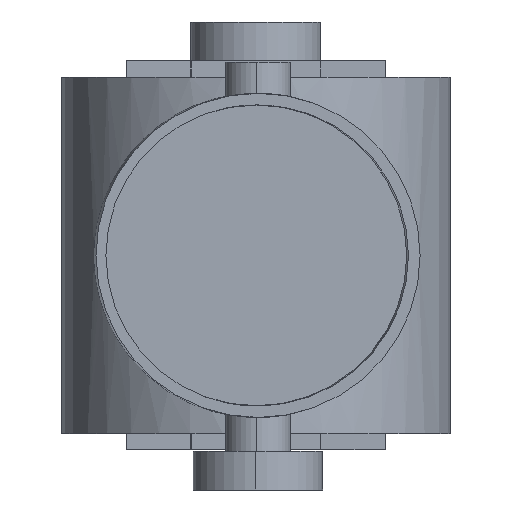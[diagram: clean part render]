
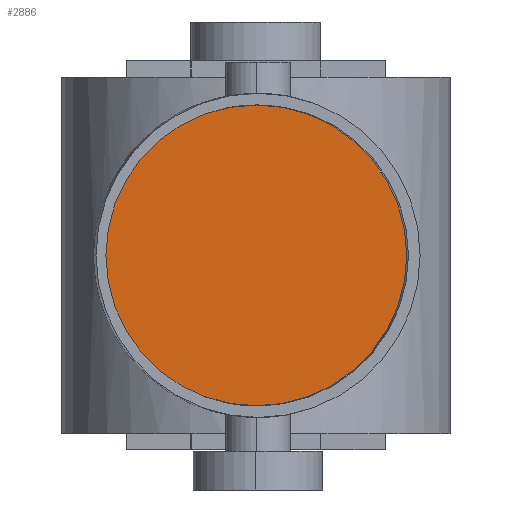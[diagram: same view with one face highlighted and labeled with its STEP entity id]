
A CAD part, front view. The second image highlights one B-rep face of the part: STEP entity #2886.
In plain terms, the highlighted planar face has unit normal (0, -1, 0).
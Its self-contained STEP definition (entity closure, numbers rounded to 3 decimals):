
#37 = EDGE_CURVE ( 'NONE', #3017, #2180, #2460, .T. ) ;
#167 = CARTESIAN_POINT ( 'NONE',  ( 0., 0., 0. ) ) ;
#250 = PLANE ( 'NONE',  #1752 ) ;
#609 = EDGE_LOOP ( 'NONE', ( #1211, #1954 ) ) ;
#676 = CARTESIAN_POINT ( 'NONE',  ( 0., 0., 0. ) ) ;
#693 = DIRECTION ( 'NONE',  ( 0., 0., 1. ) ) ;
#903 = DIRECTION ( 'NONE',  ( 0., 1., 0. ) ) ;
#1200 = FACE_OUTER_BOUND ( 'NONE', #609, .T. ) ;
#1211 = ORIENTED_EDGE ( 'NONE', *, *, #2724, .F. ) ;
#1752 = AXIS2_PLACEMENT_3D ( 'NONE', #2165, #3135, #693 ) ;
#1882 = DIRECTION ( 'NONE',  ( 0., 0., 1. ) ) ;
#1944 = CIRCLE ( 'NONE', #2353, 11.6 ) ;
#1954 = ORIENTED_EDGE ( 'NONE', *, *, #37, .F. ) ;
#2165 = CARTESIAN_POINT ( 'NONE',  ( 0., 0., 0. ) ) ;
#2180 = VERTEX_POINT ( 'NONE', #2905 ) ;
#2353 = AXIS2_PLACEMENT_3D ( 'NONE', #676, #903, #1882 ) ;
#2367 = DIRECTION ( 'NONE',  ( 0., 0., 1. ) ) ;
#2460 = CIRCLE ( 'NONE', #2769, 11.6 ) ;
#2495 = CARTESIAN_POINT ( 'NONE',  ( 0., 0., 11.6 ) ) ;
#2574 = DIRECTION ( 'NONE',  ( 0., 1., 0. ) ) ;
#2724 = EDGE_CURVE ( 'NONE', #2180, #3017, #1944, .T. ) ;
#2769 = AXIS2_PLACEMENT_3D ( 'NONE', #167, #2574, #2367 ) ;
#2886 = ADVANCED_FACE ( 'NONE', ( #1200 ), #250, .F. ) ;
#2905 = CARTESIAN_POINT ( 'NONE',  ( 0., 0., -11.6 ) ) ;
#3017 = VERTEX_POINT ( 'NONE', #2495 ) ;
#3135 = DIRECTION ( 'NONE',  ( 0., 1., 0. ) ) ;
